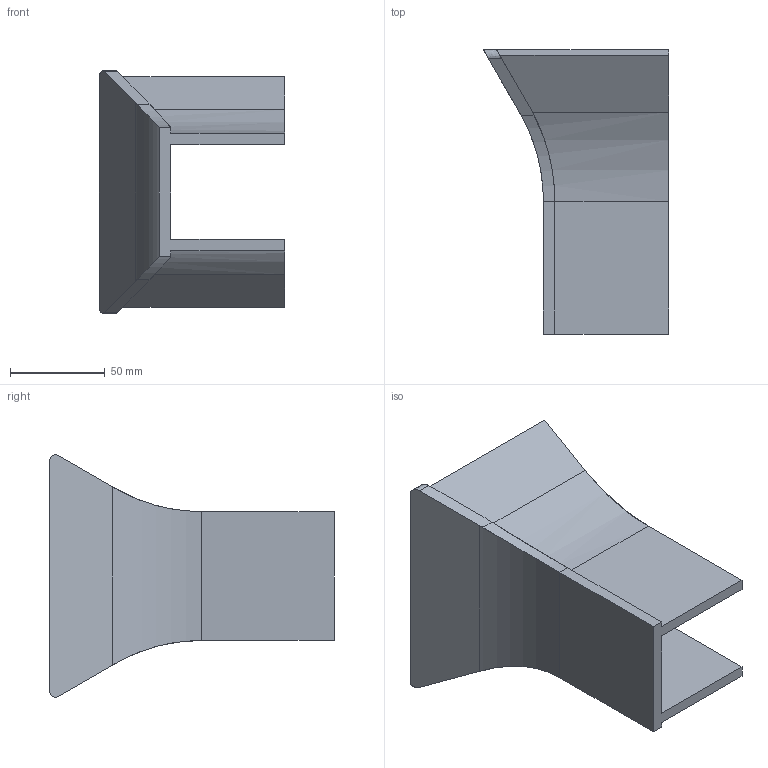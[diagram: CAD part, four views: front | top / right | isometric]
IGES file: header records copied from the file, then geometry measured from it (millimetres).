
Global section: file name: E:\UnigraphicsGraphicData\MISUMI_PRESS-PARTS\IGES\3d_cilg-70-60-50_00259_r00.igs; native system: NX V5.0; preprocessor: UGS NX IGES V5.0; author: MISUMI; date: 20110105.160246; units: millimetre
Bounding box: 97.65 x 150 x 127.89 mm (x, y, z)
Surface area: 71709.5 mm2 (no closed solid volume)
Topology: 0 solids, 0 shells, 38 faces, 214 edges, 214 vertices
Faces by surface type: bspline 38
